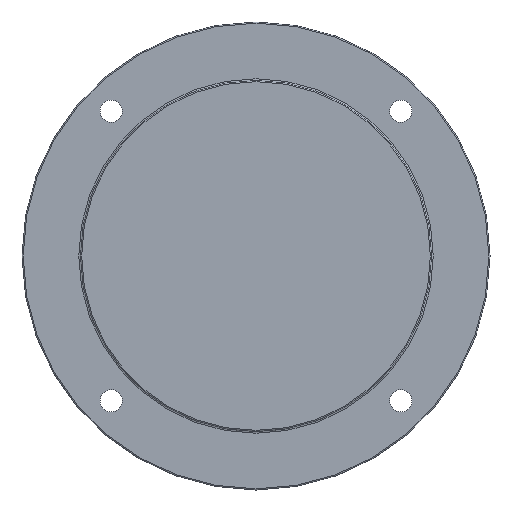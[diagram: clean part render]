
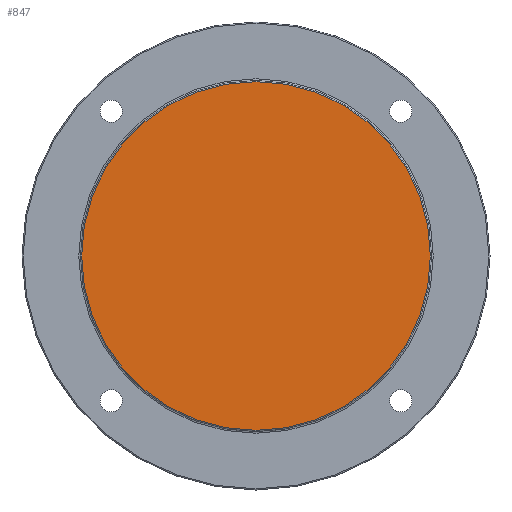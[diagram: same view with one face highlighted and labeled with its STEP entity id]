
A CAD part, left-side view. The second image highlights one B-rep face of the part: STEP entity #847.
In plain terms, the highlighted planar face has unit normal (-1, 0, 0).
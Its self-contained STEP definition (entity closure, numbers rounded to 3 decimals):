
#824=CARTESIAN_POINT('',(0.0,149.0,0.0));
#825=VERTEX_POINT('',#824);
#826=CARTESIAN_POINT('',(0.0,0.0,0.0));
#827=DIRECTION('',(1.0,0.0,0.0));
#828=DIRECTION('',(0.0,-1.0,0.0));
#829=AXIS2_PLACEMENT_3D('',#826,#827,#828);
#830=CIRCLE('',#829,149.0);
#831=EDGE_CURVE('',#825,#825,#830,.T.);
#839=CARTESIAN_POINT('',(0.0,124.847,0.));
#840=DIRECTION('',(-1.0,0.0,0.0));
#841=DIRECTION('',(0.0,0.0,1.0));
#842=AXIS2_PLACEMENT_3D('',#839,#840,#841);
#843=PLANE('',#842);
#844=ORIENTED_EDGE('',*,*,#831,.F.);
#845=EDGE_LOOP('',(#844));
#846=FACE_OUTER_BOUND('',#845,.T.);
#847=ADVANCED_FACE('',(#846),#843,.T.);
